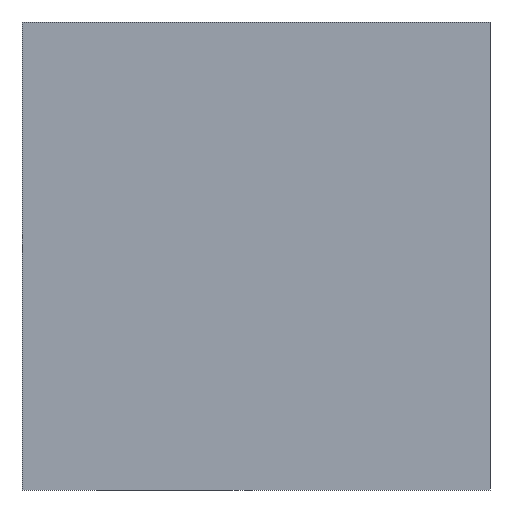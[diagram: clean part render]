
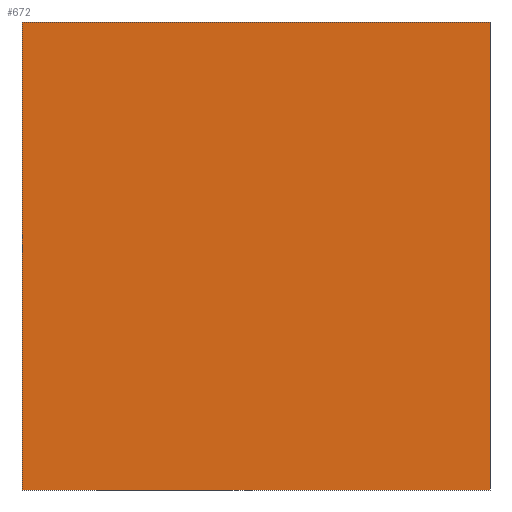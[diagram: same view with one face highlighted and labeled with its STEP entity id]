
A CAD part, front view. The second image highlights one B-rep face of the part: STEP entity #672.
In plain terms, the highlighted planar face has unit normal (0, -1, 0).
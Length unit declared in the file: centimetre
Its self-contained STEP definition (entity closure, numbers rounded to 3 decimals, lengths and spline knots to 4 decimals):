
#21 = CARTESIAN_POINT ( 'NONE',  ( 1000., 0., 1000. ) ) ;
#22 = LINE ( 'NONE', #504, #237 ) ;
#36 = EDGE_CURVE ( 'NONE', #735, #360, #244, .T. ) ;
#46 = EDGE_CURVE ( 'NONE', #793, #598, #22, .T. ) ;
#66 = AXIS2_PLACEMENT_3D ( 'NONE', #697, #743, #348 ) ;
#70 = DIRECTION ( 'NONE',  ( 1., 0., 0. ) ) ;
#74 = CARTESIAN_POINT ( 'NONE',  ( 0., 0., 1000. ) ) ;
#91 = LINE ( 'NONE', #208, #480 ) ;
#109 = ORIENTED_EDGE ( 'NONE', *, *, #36, .F. ) ;
#174 = EDGE_CURVE ( 'NONE', #735, #793, #91, .T. ) ;
#200 = LINE ( 'NONE', #21, #393 ) ;
#208 = CARTESIAN_POINT ( 'NONE',  ( 0., 0., 1000. ) ) ;
#230 = EDGE_CURVE ( 'NONE', #360, #598, #200, .T. ) ;
#237 = VECTOR ( 'NONE', #70, 100. ) ;
#244 = LINE ( 'NONE', #74, #654 ) ;
#259 = DIRECTION ( 'NONE',  ( 0., 0., -1. ) ) ;
#348 = DIRECTION ( 'NONE',  ( 0., 0., 1. ) ) ;
#360 = VERTEX_POINT ( 'NONE', #778 ) ;
#367 = DIRECTION ( 'NONE',  ( 1., 0., 0. ) ) ;
#393 = VECTOR ( 'NONE', #259, 100. ) ;
#439 = ORIENTED_EDGE ( 'NONE', *, *, #230, .F. ) ;
#448 = PLANE ( 'NONE',  #66 ) ;
#467 = ORIENTED_EDGE ( 'NONE', *, *, #46, .T. ) ;
#480 = VECTOR ( 'NONE', #648, 100. ) ;
#504 = CARTESIAN_POINT ( 'NONE',  ( 0., 0., 0. ) ) ;
#505 = FACE_OUTER_BOUND ( 'NONE', #529, .T. ) ;
#506 = CARTESIAN_POINT ( 'NONE',  ( 0., 0., 0. ) ) ;
#529 = EDGE_LOOP ( 'NONE', ( #467, #439, #109, #667 ) ) ;
#598 = VERTEX_POINT ( 'NONE', #796 ) ;
#648 = DIRECTION ( 'NONE',  ( 0., 0., -1. ) ) ;
#654 = VECTOR ( 'NONE', #367, 100. ) ;
#667 = ORIENTED_EDGE ( 'NONE', *, *, #174, .T. ) ;
#672 = ADVANCED_FACE ( 'NONE', ( #505 ), #448, .F. ) ;
#697 = CARTESIAN_POINT ( 'NONE',  ( 0., 0., 1000. ) ) ;
#698 = CARTESIAN_POINT ( 'NONE',  ( 0., 0., 1000. ) ) ;
#735 = VERTEX_POINT ( 'NONE', #698 ) ;
#743 = DIRECTION ( 'NONE',  ( 0., 1., 0. ) ) ;
#778 = CARTESIAN_POINT ( 'NONE',  ( 1000., 0., 1000. ) ) ;
#793 = VERTEX_POINT ( 'NONE', #506 ) ;
#796 = CARTESIAN_POINT ( 'NONE',  ( 1000., 0., 0. ) ) ;
